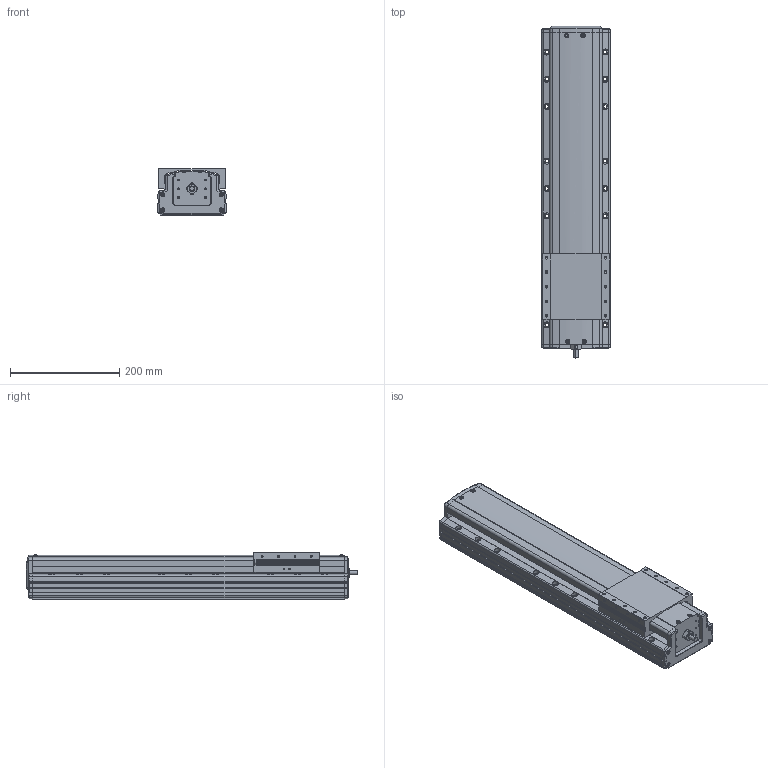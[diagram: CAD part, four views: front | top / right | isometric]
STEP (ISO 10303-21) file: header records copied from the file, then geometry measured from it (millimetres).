
FILE_DESCRIPTION(('STEP AP214'),'1');
FILE_NAME('Z:/Web/3D/PSA125/STP/PSA125-350 (3D)/PSA125ㅁㅁ-350.stp','2014-06-22T23:51:21',(' '),(' '),'Spatial InterOp 3D',' ',' ');
FILE_SCHEMA(('automotive_design'));
Length unit declared in the file: millimetre
Products named in the file (18): 스크루 : Round - M4.0 x 10.0; RRCV-PA120; SLIDE; BASE; FRCV-PA120-1(기준 뿔 제거); RR1500; 스크루 : Round - M4.0 x 6.0; 너트 : Square - M10.0 x 220.7419
Bounding box: 125 x 608.1 x 86 mm (x, y, z)
Volume: 4972075.7 mm3; surface area: 437183.3 mm2
Topology: 18 solids, 18 shells, 1846 faces, 4981 edges, 3174 vertices
Faces by surface type: plane 1010, cylinder 552, cone 196, sphere 32, bspline 31, torus 25
Entity records: 74355 total; most frequent: CARTESIAN_POINT 12679, DIRECTION 9755, ORIENTED_EDGE 9726, EDGE_CURVE 4863, LINE 3309, VECTOR 3309, AXIS2_PLACEMENT_3D 3223, VERTEX_POINT 3174
